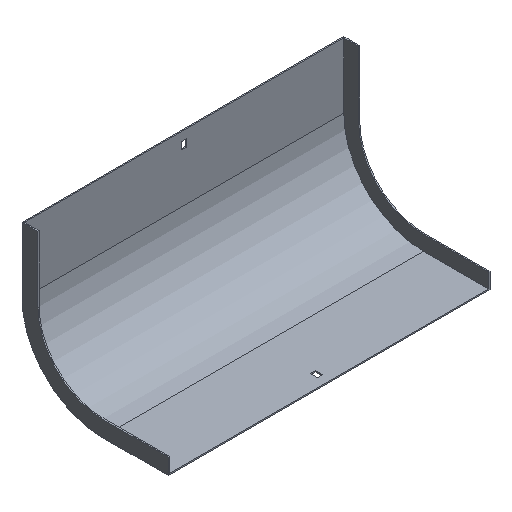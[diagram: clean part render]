
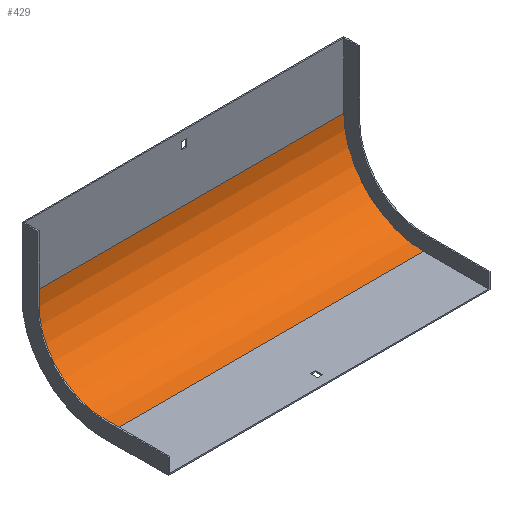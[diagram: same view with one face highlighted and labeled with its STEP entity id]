
A CAD part, isometric view. The second image highlights one B-rep face of the part: STEP entity #429.
In plain terms, the highlighted cylindrical face has radius 100 mm (diameter 200 mm), a partial arc.
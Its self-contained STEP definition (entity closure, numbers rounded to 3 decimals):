
#22 = CARTESIAN_POINT ( 'NONE',  ( 202., -1.5, -82. ) ) ;
#31 = AXIS2_PLACEMENT_3D ( 'NONE', #748, #679, #283 ) ;
#82 = FACE_OUTER_BOUND ( 'NONE', #843, .T. ) ;
#127 = CARTESIAN_POINT ( 'NONE',  ( -200.5, -101.5, -82. ) ) ;
#153 = CARTESIAN_POINT ( 'NONE',  ( 202., -101.5, -82. ) ) ;
#156 = CARTESIAN_POINT ( 'NONE',  ( 200.5, -101.5, -182. ) ) ;
#166 = AXIS2_PLACEMENT_3D ( 'NONE', #127, #521, #614 ) ;
#181 = VECTOR ( 'NONE', #245, 1000. ) ;
#182 = VERTEX_POINT ( 'NONE', #492 ) ;
#199 = ORIENTED_EDGE ( 'NONE', *, *, #413, .F. ) ;
#211 = ORIENTED_EDGE ( 'NONE', *, *, #388, .F. ) ;
#221 = DIRECTION ( 'NONE',  ( -1., 0., 0. ) ) ;
#245 = DIRECTION ( 'NONE',  ( -1., 0., 0. ) ) ;
#253 = CIRCLE ( 'NONE', #166, 100. ) ;
#283 = DIRECTION ( 'NONE',  ( 0., 0., 1. ) ) ;
#298 = AXIS2_PLACEMENT_3D ( 'NONE', #153, #221, #677 ) ;
#328 = EDGE_CURVE ( 'NONE', #182, #811, #680, .T. ) ;
#388 = EDGE_CURVE ( 'NONE', #472, #603, #578, .T. ) ;
#389 = CARTESIAN_POINT ( 'NONE',  ( 202., -101.5, -182. ) ) ;
#413 = EDGE_CURVE ( 'NONE', #603, #811, #253, .T. ) ;
#429 = ADVANCED_FACE ( 'NONE', ( #82 ), #745, .F. ) ;
#464 = DIRECTION ( 'NONE',  ( -1., 0., 0. ) ) ;
#472 = VERTEX_POINT ( 'NONE', #156 ) ;
#486 = ORIENTED_EDGE ( 'NONE', *, *, #328, .T. ) ;
#492 = CARTESIAN_POINT ( 'NONE',  ( 200.5, -1.5, -82. ) ) ;
#506 = ORIENTED_EDGE ( 'NONE', *, *, #630, .T. ) ;
#521 = DIRECTION ( 'NONE',  ( 1., 0., 0. ) ) ;
#528 = CARTESIAN_POINT ( 'NONE',  ( -200.5, -1.5, -82. ) ) ;
#534 = CARTESIAN_POINT ( 'NONE',  ( -200.5, -101.5, -182. ) ) ;
#578 = LINE ( 'NONE', #389, #181 ) ;
#603 = VERTEX_POINT ( 'NONE', #534 ) ;
#614 = DIRECTION ( 'NONE',  ( 0., 0., 1. ) ) ;
#626 = CIRCLE ( 'NONE', #31, 100. ) ;
#630 = EDGE_CURVE ( 'NONE', #472, #182, #626, .T. ) ;
#677 = DIRECTION ( 'NONE',  ( 0., 0., 1. ) ) ;
#679 = DIRECTION ( 'NONE',  ( 1., 0., 0. ) ) ;
#680 = LINE ( 'NONE', #22, #737 ) ;
#737 = VECTOR ( 'NONE', #464, 1000. ) ;
#745 = CYLINDRICAL_SURFACE ( 'NONE', #298, 100. ) ;
#748 = CARTESIAN_POINT ( 'NONE',  ( 200.5, -101.5, -82. ) ) ;
#811 = VERTEX_POINT ( 'NONE', #528 ) ;
#843 = EDGE_LOOP ( 'NONE', ( #199, #211, #506, #486 ) ) ;
